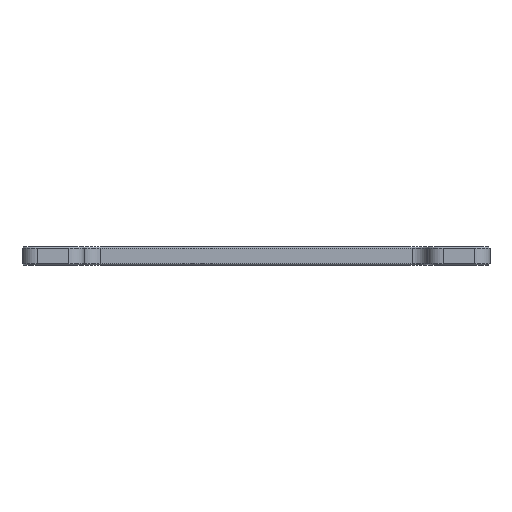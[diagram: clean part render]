
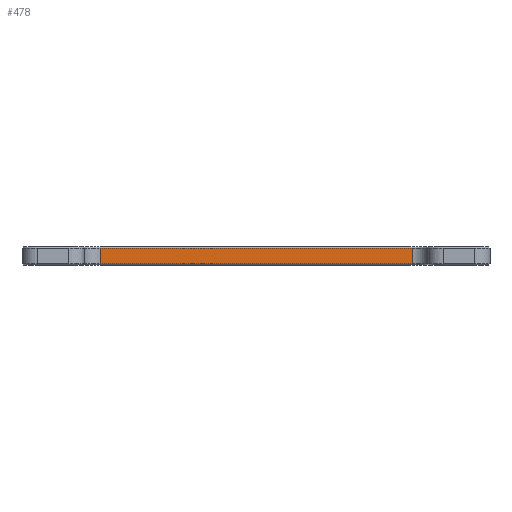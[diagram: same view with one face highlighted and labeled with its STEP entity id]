
A CAD part, front view. The second image highlights one B-rep face of the part: STEP entity #478.
In plain terms, the highlighted planar face has unit normal (0, -1, 0).
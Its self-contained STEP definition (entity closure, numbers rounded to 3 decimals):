
#478=ADVANCED_FACE('',(#780),#694,.T.);
#694=PLANE('',#3441);
#780=FACE_OUTER_BOUND('',#948,.T.);
#948=EDGE_LOOP('',(#1270,#1271,#1272,#1273));
#1270=ORIENTED_EDGE('',*,*,#2458,.T.);
#1271=ORIENTED_EDGE('',*,*,#2459,.T.);
#1272=ORIENTED_EDGE('',*,*,#2460,.T.);
#1273=ORIENTED_EDGE('',*,*,#2461,.T.);
#2174=VERTEX_POINT('',#4969);
#2175=VERTEX_POINT('',#4970);
#2176=VERTEX_POINT('',#4972);
#2177=VERTEX_POINT('',#4974);
#2458=EDGE_CURVE('',#2174,#2175,#2910,.T.);
#2459=EDGE_CURVE('',#2175,#2176,#2911,.T.);
#2460=EDGE_CURVE('',#2176,#2177,#2912,.T.);
#2461=EDGE_CURVE('',#2177,#2174,#2913,.T.);
#2910=LINE('',#4968,#3190);
#2911=LINE('',#4971,#3191);
#2912=LINE('',#4973,#3192);
#2913=LINE('',#4975,#3193);
#3190=VECTOR('',#3881,1.);
#3191=VECTOR('',#3882,1.);
#3192=VECTOR('',#3883,1.);
#3193=VECTOR('',#3884,1.);
#3441=AXIS2_PLACEMENT_3D('',#4976,#3885,#3886);
#3881=DIRECTION('',(0.,0.,-1.));
#3882=DIRECTION('',(1.,0.,0.));
#3883=DIRECTION('',(0.,0.,1.));
#3884=DIRECTION('',(-1.,0.,0.));
#3885=DIRECTION('',(0.,-1.,0.));
#3886=DIRECTION('',(1.,0.,0.));
#4968=CARTESIAN_POINT('',(400.,44.,370.));
#4969=CARTESIAN_POINT('',(400.,44.,375.5));
#4970=CARTESIAN_POINT('',(400.,44.,370.5));
#4971=CARTESIAN_POINT('',(500.,44.,370.5));
#4972=CARTESIAN_POINT('',(500.,44.,370.5));
#4973=CARTESIAN_POINT('',(500.,44.,376.));
#4974=CARTESIAN_POINT('',(500.,44.,375.5));
#4975=CARTESIAN_POINT('',(395.,44.,375.5));
#4976=CARTESIAN_POINT('',(395.,44.,370.));
